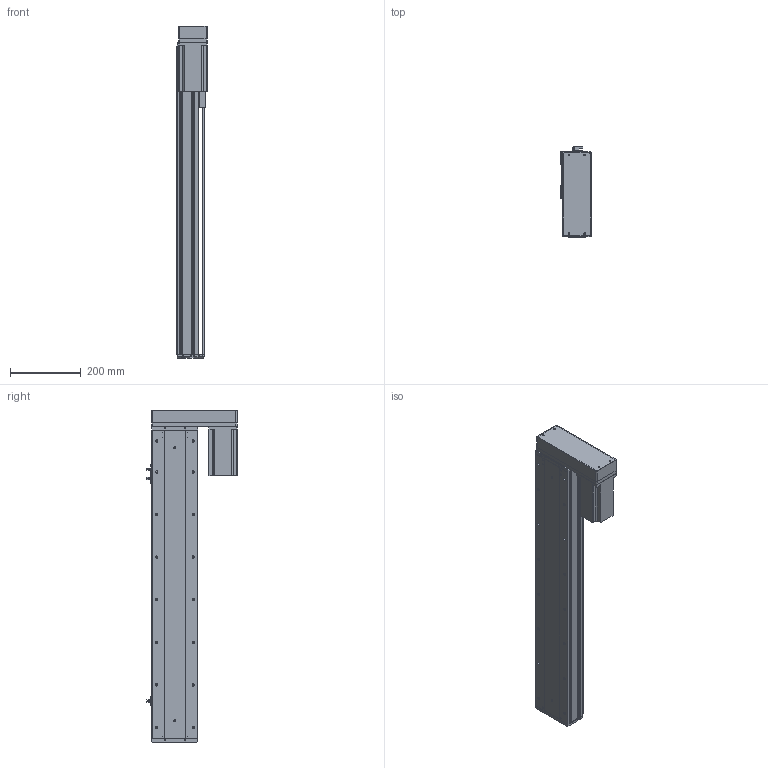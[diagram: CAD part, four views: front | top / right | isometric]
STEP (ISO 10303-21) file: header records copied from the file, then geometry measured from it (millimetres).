
FILE_DESCRIPTION (( 'STEP AP214' ), '1' );
FILE_NAME ('KSD130-P2010-S650-MR-CM.STEP', '2019-09-17T07:48:40', ( '微软用户' ), ( '微软中国' ), 'SwSTEP 2.0', 'SolidWorks 2014', '' );
FILE_SCHEMA (( 'AUTOMOTIVE_DESIGN' ));
Length unit declared in the file: millimetre
Products named in the file (10): KSD130-P2010-S650-MR-CM; 130宽模组保护罩左右折; 台达ECMA－C20807AS伺服电机; 130宽模组马达安装板连板左右折丝杆; U倰嫖萇EEㄜSX672; 130宽盖板半封闭丝杠-650行程; 130宽滚珠丝杆安装板半封闭-20丝杠; 130宽马达安装板半封闭; 130遵傷裔圉猾敕; 130宽底板半封闭丝杠-650行程
Assembly tree (11 placements, depth 2):
  KSD130-P2010-S650-MR-CM
    130宽底板半封闭丝杠-650行程
    130遵傷裔圉猾敕
    130宽马达安装板半封闭
    130宽滚珠丝杆安装板半封闭-20丝杠
    130宽盖板半封闭丝杠-650行程
    U倰嫖萇EEㄜSX672  x3
    130宽模组马达安装板连板左右折丝杆
    台达ECMA－C20807AS伺服电机
    130宽模组保护罩左右折
Bounding box: 85 x 253.7 x 935.5 mm (x, y, z)
Volume: 3838052.7 mm3; surface area: 1037861.8 mm2
Topology: 12 solids, 12 shells, 1312 faces, 3707 edges, 2365 vertices
Faces by surface type: cylinder 625, plane 544, cone 143
Entity records: 42823 total; most frequent: CARTESIAN_POINT 8059, DIRECTION 6295, ORIENTED_EDGE 6094, EDGE_CURVE 3047, AXIS2_PLACEMENT_3D 2281, VERTEX_POINT 1989, LINE 1733, VECTOR 1733
